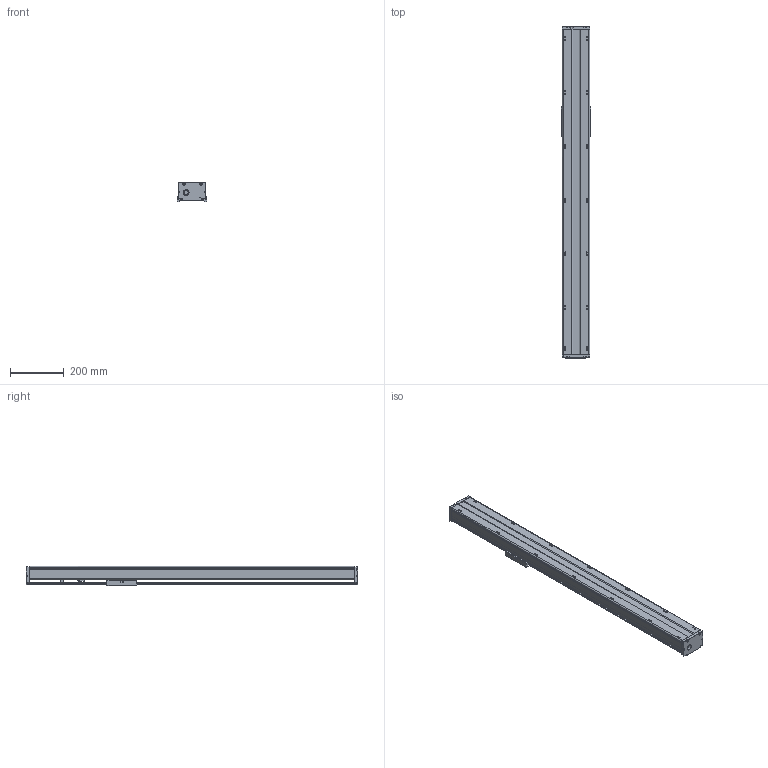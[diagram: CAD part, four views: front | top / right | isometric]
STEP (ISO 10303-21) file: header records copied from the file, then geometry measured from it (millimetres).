
FILE_DESCRIPTION(/* description */ (''),/* implementation_level */ '2;1');
FILE_NAME(/* name */ 'TKA100-850A1FI_asm1.stp',/* time_stamp */ '2017-02-21T09:00:26+08:00',/* author */ (''),/* organization */ (''),/* preprocessor_version */ 'ST-DEVELOPER v15',/* originating_system */ 'SIEMENS PLM Software NX 8.5',/* authorisation */ '');
FILE_SCHEMA (('AUTOMOTIVE_DESIGN { 1 0 10303 214 3 1 1 1 }'));
Length unit declared in the file: millimetre
Products named in the file (3): 200-02; 200-01; TKA100-850A1FI_asm1_stp
Assembly tree (2 placements, depth 2):
  TKA100-850A1FI_asm1_stp
    200-01
    200-02
Bounding box: 110 x 1234 x 71 mm (x, y, z)
Volume: 2538478.7 mm3; surface area: 827944.3 mm2
Topology: 2 solids, 9 shells, 869 faces, 2250 edges, 1427 vertices
Faces by surface type: plane 361, cylinder 297, cone 151, torus 34, bspline 26
Full cylindrical faces by diameter (mm): 2.5 x4, 2.6 x8, 3.3 x8, 3.4 x4, 3.8 x4, 4.2 x23, 4.3 x4, 4.5 x4, 5 x1, 5.5 x26, 6.6 x4, 8 x5, 9 x4, 10 x14, 11 x4, 12 x7, 15.3 x1, 16 x1, 22 x1, 24 x1, 28 x5, 30 x1
Entity records: 30828 total; most frequent: CARTESIAN_POINT 10632, DIRECTION 4196, ORIENTED_EDGE 3906, EDGE_CURVE 1953, AXIS2_PLACEMENT_3D 1626, VERTEX_POINT 1348, EDGE_LOOP 1175, LINE 944
